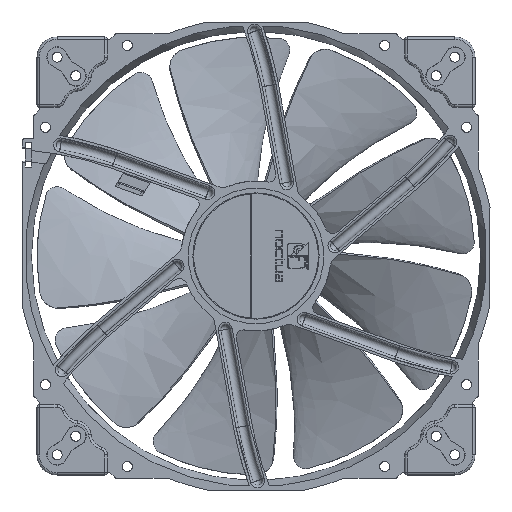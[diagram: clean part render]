
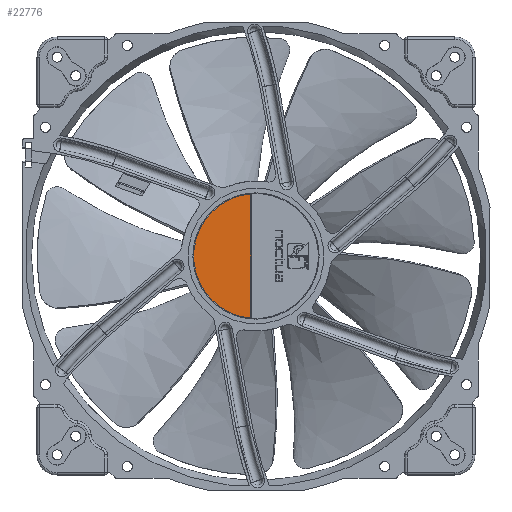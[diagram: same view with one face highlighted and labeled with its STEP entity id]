
A CAD part, front view. The second image highlights one B-rep face of the part: STEP entity #22776.
In plain terms, the highlighted planar face has unit normal (0, -1, 0).
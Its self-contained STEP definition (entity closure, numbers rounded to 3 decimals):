
#2606=CIRCLE('',#25661,26.65);
#10147=ORIENTED_EDGE('',*,*,#13637,.F.);
#10148=ORIENTED_EDGE('',*,*,#13632,.F.);
#13632=EDGE_CURVE('',#15947,#15948,#17158,.T.);
#13637=EDGE_CURVE('',#15948,#15947,#2606,.T.);
#15947=VERTEX_POINT('',#51021);
#15948=VERTEX_POINT('',#51022);
#17158=LINE('',#51020,#18365);
#18365=VECTOR('',#30348,1000.);
#19766=EDGE_LOOP('',(#10147,#10148));
#21171=FACE_BOUND('',#19766,.T.);
#21544=PLANE('',#25667);
#22776=ADVANCED_FACE('',(#21171),#21544,.F.);
#25661=AXIS2_PLACEMENT_3D('',#51031,#30358,#30359);
#25667=AXIS2_PLACEMENT_3D('',#51039,#30370,#30371);
#30348=DIRECTION('',(1.,0.,0.));
#30358=DIRECTION('',(0.,1.,0.));
#30359=DIRECTION('',(1.,0.,0.));
#30370=DIRECTION('',(0.,1.,0.));
#30371=DIRECTION('',(0.,0.,1.));
#51020=CARTESIAN_POINT('',(26.555,0.,-2.25));
#51021=CARTESIAN_POINT('',(-26.555,0.,-2.25));
#51022=CARTESIAN_POINT('',(26.555,0.,-2.25));
#51031=CARTESIAN_POINT('',(0.,0.,0.));
#51039=CARTESIAN_POINT('',(0.,0.,0.));
